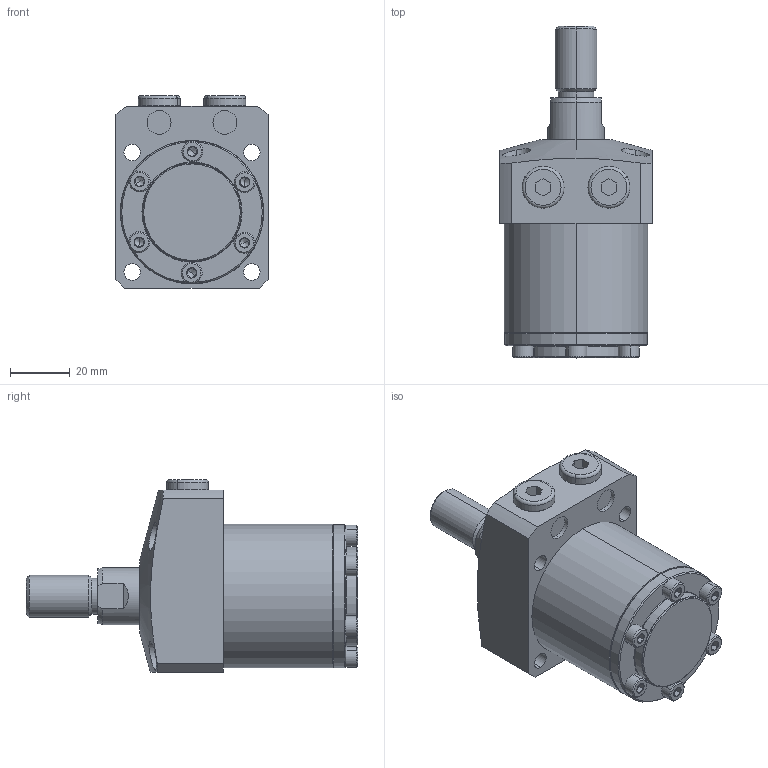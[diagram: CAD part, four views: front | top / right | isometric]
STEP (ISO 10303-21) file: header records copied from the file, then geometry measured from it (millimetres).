
FILE_DESCRIPTION (( 'STEP AP203' ), '1' );
FILE_NAME ('680480-CT-035.STEP', '2019-11-06T04:44:29', ( '微软用户' ), ( '微软中国' ), 'SwSTEP 2.0', 'SolidWorks 2014', '' );
FILE_SCHEMA (( 'CONFIG_CONTROL_DESIGN' ));
Length unit declared in the file: millimetre
Products named in the file (6): 680480-CT-035; 1^680480-CT-035; 2^680480-CT-035; 3^680480-CT-035; 5^680480-CT-035; 4^680480-CT-035
Assembly tree (11 placements, depth 2):
  680480-CT-035
    1^680480-CT-035
    2^680480-CT-035
    3^680480-CT-035  x6
    4^680480-CT-035  x2
    5^680480-CT-035
Bounding box: 51 x 111 x 64.5 mm (x, y, z)
Volume: 165489.1 mm3; surface area: 32647.5 mm2
Topology: 11 solids, 11 shells, 342 faces, 668 edges, 365 vertices
Faces by surface type: plane 139, cone 97, cylinder 90, torus 16
Entity records: 5549 total; most frequent: CARTESIAN_POINT 1137, DIRECTION 839, ORIENTED_EDGE 684, AXIS2_PLACEMENT_3D 350, EDGE_CURVE 342, VERTEX_POINT 208, EDGE_LOOP 198, CIRCLE 175
